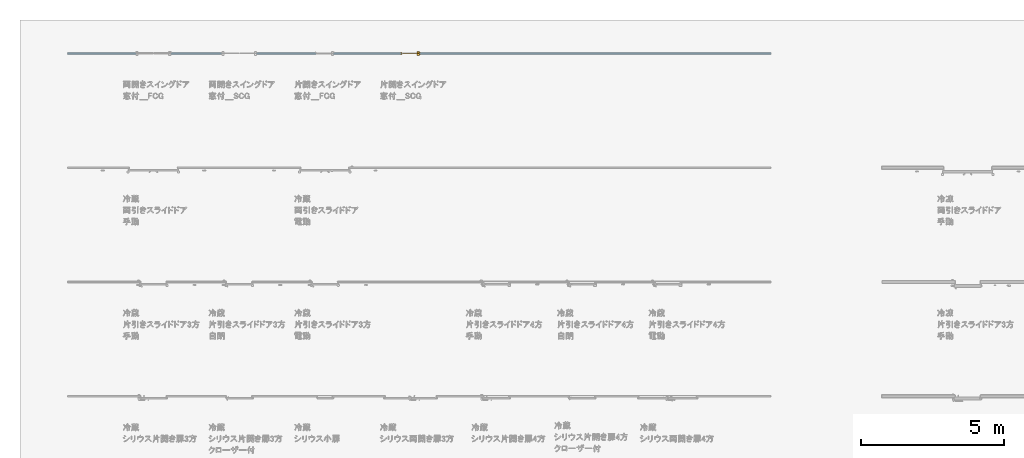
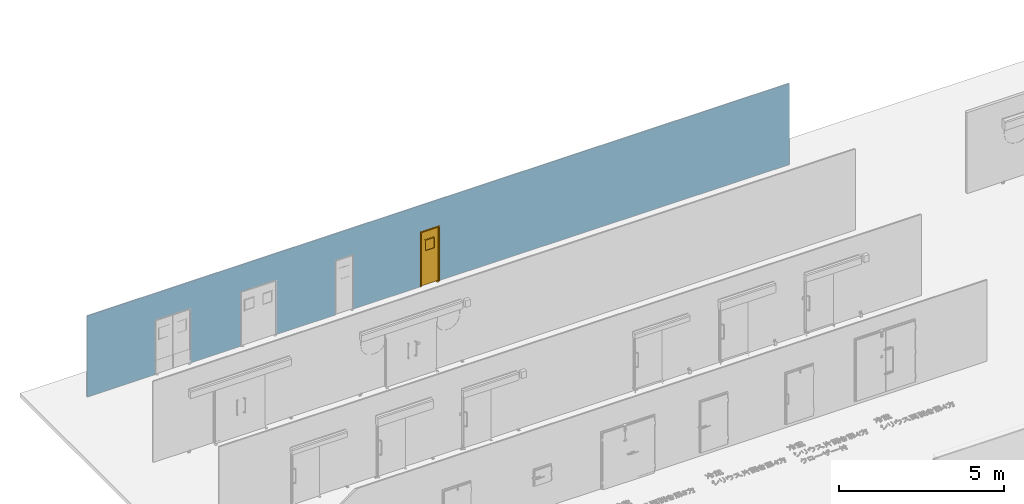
# One storey, part 7 of 16: 1 door, 4 openings, plus 1 element that does not belong to this part.
"""IFC2X3 building model written with IfcOpenShell, lengths in millimetres."""

import ifcopenshell
import ifcopenshell.guid

model = None  # the IFC model being written
_history = None  # IfcOwnerHistory: only IFC2X3 demands one
_inside = {}  # id of a spatial element -> (the spatial element, [elements in it])
_under = {}  # id of a project, library or spatial element -> (it, [spatial elements below it])
_declared = {}  # id of a project -> (the project, [libraries it declares])
_typed = {}  # id of a type object -> (the type object, [elements of that type])
_made_of = {}  # id of a material, layer set ... -> (it, [elements and type objects made of it])


def new_model(schema):
    """Start an empty IFC model of exactly this schema.

    Asked for "IFC4X3", IfcOpenShell would pick the latest addendum, in which some entities
    have other attributes; the version numbers below select the first issue.
    IFC2X3 requires an IfcOwnerHistory on every rooted entity: one is made here for all.
    """
    global model, _history
    if schema == "IFC4X3":
        model = ifcopenshell.file(schema_version=(4, 3, 0, 0))
    else:
        model = ifcopenshell.file(schema=schema)
    _inside.clear()
    _under.clear()
    _declared.clear()
    _typed.clear()
    _made_of.clear()
    _history = None
    if model.schema == "IFC2X3":
        org = make("IfcOrganization", Name="unknown")
        user = make(
            "IfcPersonAndOrganization",
            ThePerson=make("IfcPerson", FamilyName="unknown"),
            TheOrganization=org,
        )
        app = make(
            "IfcApplication",
            ApplicationDeveloper=org,
            Version="unknown",
            ApplicationFullName="unknown",
            ApplicationIdentifier="unknown",
        )
        _history = make(
            "IfcOwnerHistory",
            OwningUser=user,
            OwningApplication=app,
            ChangeAction="ADDED",
            CreationDate=0,
        )
    return model


def make(cls, **values):
    """One entity of the class cls with the attributes given. An attribute that is None is left unset."""
    return model.create_entity(
        cls, **{name: value for name, value in values.items() if value is not None}
    )


def entity(cls, *values):
    """Any entity or typed value of the class cls, its attributes in the order of the schema. None: left unset."""
    e = model.create_entity(cls)
    for i, value in enumerate(values):
        if value is not None:
            e[i] = value
    return e


def rooted(cls, **values):
    """An entity with a GlobalId (a new one), such as an element, a storey or a relation."""
    return make(cls, GlobalId=ifcopenshell.guid.new(), OwnerHistory=_history, **values)


def si_unit(unit_type, name, prefix=None):
    """IfcSIUnit, for example si_unit("LENGTHUNIT", "METRE", prefix="MILLI")."""
    return make("IfcSIUnit", UnitType=unit_type, Prefix=prefix, Name=name)


def converted_unit(unit_type, name, factor, base, dimensions=None, offset=None):
    """IfcConversionBasedUnit, such as the inch: factor (a typed value) times the base unit."""
    return make(
        "IfcConversionBasedUnit"
        if offset is None
        else "IfcConversionBasedUnitWithOffset",
        ConversionOffset=offset,
        Dimensions=None
        if dimensions is None
        else entity("IfcDimensionalExponents", *dimensions),
        UnitType=unit_type,
        Name=name,
        ConversionFactor=make(
            "IfcMeasureWithUnit", ValueComponent=factor, UnitComponent=base
        ),
    )


def derived_unit(unit_type, elements):
    """IfcDerivedUnit: a product of units, each with its exponent."""
    return make(
        "IfcDerivedUnit",
        Elements=[
            make("IfcDerivedUnitElement", Unit=unit, Exponent=power)
            for unit, power in elements
        ],
        UnitType=unit_type,
    )


def assignment(units):
    """IfcUnitAssignment: the units of a project."""
    return None if units is None else make("IfcUnitAssignment", Units=units)


def point(xyz):
    """IfcCartesianPoint."""
    return None if xyz is None else make("IfcCartesianPoint", Coordinates=xyz)


def direction(xyz):
    """IfcDirection."""
    return None if xyz is None else make("IfcDirection", DirectionRatios=xyz)


def frame(location, z_axis=None, x_axis=None):
    """IfcAxis2Placement3D, a coordinate frame: its origin and axes. An axis left out is left unset."""
    return make(
        "IfcAxis2Placement3D",
        Location=point(location),
        Axis=direction(z_axis),
        RefDirection=direction(x_axis),
    )


def frame_2d(location, x_axis=None):
    """IfcAxis2Placement2D, a coordinate frame in the plane: its origin and x axis."""
    return make(
        "IfcAxis2Placement2D", Location=point(location), RefDirection=direction(x_axis)
    )


def origin():
    """The frame at (0, 0, 0) with its axes left unset."""
    return frame((0.0, 0.0, 0.0))


def place(relative_to, where):
    """IfcLocalPlacement: puts the frame where relative to a parent placement (None: the world)."""
    return make(
        "IfcLocalPlacement", PlacementRelTo=relative_to, RelativePlacement=where
    )


def context(
    kind, dimensions, precision=None, world=None, true_north=None, identifier=None
):
    """IfcGeometricRepresentationContext, for example the 3D "Model" context."""
    return make(
        "IfcGeometricRepresentationContext",
        ContextIdentifier=identifier,
        ContextType=kind,
        CoordinateSpaceDimension=dimensions,
        Precision=precision,
        WorldCoordinateSystem=world,
        TrueNorth=true_north,
    )


def subcontext(parent, identifier, kind, view, scale=None):
    """IfcGeometricRepresentationSubContext, for example "Body" below "Model"."""
    return make(
        "IfcGeometricRepresentationSubContext",
        ContextIdentifier=identifier,
        ContextType=kind,
        ParentContext=parent,
        TargetScale=scale,
        TargetView=view,
    )


def project(units=None, contexts=None):
    """IfcProject with its units and contexts."""
    return rooted(
        "IfcProject",
        Name="project",
        RepresentationContexts=contexts,
        UnitsInContext=assignment(units),
    )


def spatial(cls, under=None, at=None, **own):
    """A site, building, storey or space (cls), placed at a placement, below another one or the project."""
    s = rooted(cls, ObjectPlacement=at, **own)
    if under is not None:
        _under.setdefault(under.id(), (under, []))[1].append(s)
    return s


def profile(cls, at=None, kind="AREA", **sizes):
    """A parametric profile (cls). Its sizes go by their IFC names, for example OverallWidth=200.0."""
    return make(cls, ProfileType=kind, Position=at, **sizes)


def rectangle(**sizes):
    """IfcRectangleProfileDef."""
    return profile("IfcRectangleProfileDef", **sizes)


def extrude(swept, where, along, depth):
    """IfcExtrudedAreaSolid: the profile swept, set in the frame where, extruded along a direction by depth."""
    return make(
        "IfcExtrudedAreaSolid",
        SweptArea=swept,
        Position=where,
        ExtrudedDirection=direction(along),
        Depth=depth,
    )


def faces_of(points, faces, orient=None, outer=None):
    """IfcFace entities. A face is a list of loops; a loop is a list of indices into points, from 0.

    orient and outer hold one flag for each loop. By default every Orientation is true, the
    first loop of a face is its IfcFaceOuterBound and the others are IfcFaceBound.
    """
    made = []
    for i, loops in enumerate(faces):
        bounds = []
        for j, loop in enumerate(loops):
            is_outer = j == 0 if outer is None else outer[i][j]
            bounds.append(
                make(
                    "IfcFaceOuterBound" if is_outer else "IfcFaceBound",
                    Bound=make("IfcPolyLoop", Polygon=[points[k] for k in loop]),
                    Orientation=True if orient is None else orient[i][j],
                )
            )
        made.append(make("IfcFace", Bounds=bounds))
    return made


def faceted_brep(points, faces, orient=None, outer=None, voids=None):
    """IfcFacetedBrep: a solid bounded by flat faces; with voids (closed shells), ...WithVoids."""
    shared = [point(p) for p in points]
    hull = make("IfcClosedShell", CfsFaces=faces_of(shared, faces, orient, outer))
    if voids is None:
        return make("IfcFacetedBrep", Outer=hull)
    return make(
        "IfcFacetedBrepWithVoids",
        Outer=hull,
        Voids=[
            make(cls, CfsFaces=faces_of(shared, fs, o, b)) for cls, fs, o, b in voids
        ],
    )


def shape(context_of_items, identifier, shape_type, items):
    """IfcShapeRepresentation: the items that make up one representation, for example the "Body"."""
    return make(
        "IfcShapeRepresentation",
        ContextOfItems=context_of_items,
        RepresentationIdentifier=identifier,
        RepresentationType=shape_type,
        Items=items,
    )


def source(mapping_origin, context_of_items, identifier, shape_type, items):
    """IfcRepresentationMap: a shape defined once, which mapped items show again and again."""
    return make(
        "IfcRepresentationMap",
        MappingOrigin=mapping_origin,
        MappedRepresentation=shape(context_of_items, identifier, shape_type, items),
    )


def transform(
    local_origin,
    x_axis=None,
    y_axis=None,
    z_axis=None,
    scale=None,
    scale2=None,
    scale3=None,
    uniform=True,
):
    """IfcCartesianTransformationOperator3D, or its non-uniform kind. x_axis, y_axis, z_axis: its Axis1, 2, 3."""
    if uniform:
        return make(
            "IfcCartesianTransformationOperator3D",
            Axis1=direction(x_axis),
            Axis2=direction(y_axis),
            LocalOrigin=point(local_origin),
            Scale=scale,
            Axis3=direction(z_axis),
        )
    return make(
        "IfcCartesianTransformationOperator3DnonUniform",
        Axis1=direction(x_axis),
        Axis2=direction(y_axis),
        LocalOrigin=point(local_origin),
        Scale=scale,
        Axis3=direction(z_axis),
        Scale2=scale2,
        Scale3=scale3,
    )


def mapped(mapping_source, mapping_target):
    """IfcMappedItem: shows the shape of a source again, moved by a transform."""
    return make(
        "IfcMappedItem", MappingSource=mapping_source, MappingTarget=mapping_target
    )


def material(Name=None, Category=None):
    """IfcMaterial."""
    return make("IfcMaterial", Name=Name, Category=Category)


def material_list(materials):
    """IfcMaterialList."""
    return make("IfcMaterialList", Materials=materials)


def layer(
    of_material, thickness, ventilated=None, Name=None, Category=None, Priority=None
):
    """IfcMaterialLayer: one layer of a wall or slab, of a material (None: an air gap)."""
    return make(
        "IfcMaterialLayer",
        Material=of_material,
        LayerThickness=thickness,
        IsVentilated=ventilated,
        Name=Name,
        Category=Category,
        Priority=Priority,
    )


def layer_set(layers, Name=None):
    """IfcMaterialLayerSet."""
    return make("IfcMaterialLayerSet", MaterialLayers=layers, LayerSetName=Name)


def layer_usage(for_layer_set, set_direction, sense, offset, extent=None):
    """IfcMaterialLayerSetUsage: how a layer set lies in its element."""
    return make(
        "IfcMaterialLayerSetUsage",
        ForLayerSet=for_layer_set,
        LayerSetDirection=set_direction,
        DirectionSense=sense,
        OffsetFromReferenceLine=offset,
        ReferenceExtent=extent,
    )


def made_of(thing, what):
    """Note that an element or type object is made of a material, layer set ...; save() writes the relation."""
    if what is not None:
        _made_of.setdefault(what.id(), (what, []))[1].append(thing)
    return thing


def type_object(cls, material=None, **own):
    """A type object (cls), such as IfcWallType, which elements share."""
    return made_of(rooted(cls, **own), material)


def type_shapes(of_type, sources):
    """Give a type object the sources (RepresentationMaps) that its elements show as mapped items."""
    of_type.RepresentationMaps = sources


def element(
    cls,
    number,
    at=None,
    inside=None,
    cuts=None,
    type_object=None,
    material=None,
    context=None,
    identifier="Body",
    shape_type=None,
    held_by="IfcProductDefinitionShape",
    body=None,
    shapes=None,
    **own,
):
    """One element of the class cls, such as IfcWall. Its Tag is "e" and its number.

    at: its placement. inside: the storey or other place that contains it. cuts: it is an
    opening in that element (IfcRelVoidsElement). A single representation is given by context,
    identifier, shape_type and body (its items); several are given by shapes. held_by: the class
    of the entity that holds the representations. save() writes the other relations.
    """
    e = rooted(cls, Tag="e%d" % number, ObjectPlacement=at, **own)
    if body is not None:
        shapes = [shape(context, identifier, shape_type, body)]
    if shapes is not None:
        e.Representation = make(held_by, Representations=shapes)
    if inside is not None:
        _inside.setdefault(inside.id(), (inside, []))[1].append(e)
    if cuts is not None:
        rooted(
            "IfcRelVoidsElement", RelatingBuildingElement=cuts, RelatedOpeningElement=e
        )
    if type_object is not None:
        _typed.setdefault(type_object.id(), (type_object, []))[1].append(e)
    return made_of(e, material)


def fill(opening, filler):
    """IfcRelFillsElement: the door or window that sits in an opening."""
    return rooted(
        "IfcRelFillsElement",
        RelatingOpeningElement=opening,
        RelatedBuildingElement=filler,
    )


def aggregate(whole, parts):
    """IfcRelAggregates: a whole, such as a stair, and the parts it consists of."""
    return rooted("IfcRelAggregates", RelatingObject=whole, RelatedObjects=parts)


def save(model, path):
    """Write the relations noted so far, then the file.

    IfcRelAggregates (storeys below a building ...), IfcRelContainedInSpatialStructure (elements
    in a storey), IfcRelDefinesByType, IfcRelAssociatesMaterial and IfcRelDeclares: one each for
    every whole, place, type object, material and project.
    """
    for whole, parts in _under.values():
        aggregate(whole, parts)
    for where, things in _inside.values():
        rooted(
            "IfcRelContainedInSpatialStructure",
            RelatedElements=things,
            RelatingStructure=where,
        )
    for kind, things in _typed.values():
        rooted("IfcRelDefinesByType", RelatedObjects=things, RelatingType=kind)
    for what, things in _made_of.values():
        rooted("IfcRelAssociatesMaterial", RelatedObjects=things, RelatingMaterial=what)
    for by, libraries in _declared.values():
        rooted("IfcRelDeclares", RelatingContext=by, RelatedDefinitions=libraries)
    model.write(path)


model = new_model("IFC2X3")

# Units and contexts
model_context = context("Model", 3, precision=0.01, world=origin(), true_north=direction((6.123031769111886e-17, 1.0)))
body_context = subcontext(model_context, "Body", "Model", "MODEL_VIEW")
ifc_project = project(units=[si_unit("LENGTHUNIT", "METRE", prefix="MILLI"), si_unit("AREAUNIT", "SQUARE_METRE"), si_unit("VOLUMEUNIT", "CUBIC_METRE"), converted_unit("PLANEANGLEUNIT", "DEGREE", entity("IfcRatioMeasure", 0.017453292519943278), si_unit("PLANEANGLEUNIT", "RADIAN"), dimensions=[0, 0, 0, 0, 0, 0, 0]), si_unit("MASSUNIT", "GRAM", prefix="KILO"), derived_unit("MASSDENSITYUNIT", [(si_unit("MASSUNIT", "GRAM", prefix="KILO"), 1), (si_unit("LENGTHUNIT", "METRE"), -3)]), derived_unit("IONCONCENTRATIONUNIT", [(si_unit("MASSUNIT", "GRAM", prefix="KILO"), 1), (si_unit("LENGTHUNIT", "METRE"), -3)]), derived_unit("MOMENTOFINERTIAUNIT", [(si_unit("LENGTHUNIT", "METRE"), 4)]), si_unit("TIMEUNIT", "SECOND"), si_unit("FREQUENCYUNIT", "HERTZ"), si_unit("THERMODYNAMICTEMPERATUREUNIT", "DEGREE_CELSIUS"), derived_unit("THERMALTRANSMITTANCEUNIT", [(si_unit("MASSUNIT", "GRAM", prefix="KILO"), 1), (si_unit("THERMODYNAMICTEMPERATUREUNIT", "KELVIN"), -1), (si_unit("TIMEUNIT", "SECOND"), -3)]), derived_unit("THERMALCONDUCTANCEUNIT", [(si_unit("MASSUNIT", "GRAM", prefix="KILO"), 1), (si_unit("THERMODYNAMICTEMPERATUREUNIT", "KELVIN"), -1), (si_unit("TIMEUNIT", "SECOND"), -3), (si_unit("LENGTHUNIT", "METRE"), 1)]), derived_unit("VOLUMETRICFLOWRATEUNIT", [(si_unit("LENGTHUNIT", "METRE"), 3), (si_unit("TIMEUNIT", "SECOND"), -1)]), derived_unit("MASSFLOWRATEUNIT", [(si_unit("MASSUNIT", "GRAM", prefix="KILO"), 1), (si_unit("TIMEUNIT", "SECOND"), -1)]), derived_unit("ROTATIONALFREQUENCYUNIT", [(si_unit("TIMEUNIT", "SECOND"), -1)]), si_unit("ELECTRICCURRENTUNIT", "AMPERE"), si_unit("ELECTRICVOLTAGEUNIT", "VOLT"), si_unit("POWERUNIT", "WATT"), si_unit("FORCEUNIT", "NEWTON", prefix="KILO"), si_unit("ILLUMINANCEUNIT", "LUX"), si_unit("LUMINOUSFLUXUNIT", "LUMEN"), si_unit("LUMINOUSINTENSITYUNIT", "CANDELA"), derived_unit("USERDEFINED", [(si_unit("MASSUNIT", "GRAM", prefix="KILO"), -1), (si_unit("LENGTHUNIT", "METRE"), -2), (si_unit("TIMEUNIT", "SECOND"), 3), (si_unit("LUMINOUSFLUXUNIT", "LUMEN"), 1)]), derived_unit("USERDEFINED", [(si_unit("MASSUNIT", "GRAM", prefix="KILO"), 1), (si_unit("TIMEUNIT", "SECOND"), -3), (si_unit("LENGTHUNIT", "METRE"), 3), (si_unit("ELECTRICCURRENTUNIT", "AMPERE"), -2)]), derived_unit("SOUNDPOWERUNIT", [(si_unit("MASSUNIT", "GRAM", prefix="KILO"), 1), (si_unit("TIMEUNIT", "SECOND"), -3), (si_unit("LENGTHUNIT", "METRE"), 2)]), derived_unit("SOUNDPRESSUREUNIT", [(si_unit("MASSUNIT", "GRAM", prefix="KILO"), 1), (si_unit("LENGTHUNIT", "METRE"), -1), (si_unit("TIMEUNIT", "SECOND"), -2)]), derived_unit("LINEARVELOCITYUNIT", [(si_unit("LENGTHUNIT", "METRE"), 1), (si_unit("TIMEUNIT", "SECOND"), -1)]), si_unit("PRESSUREUNIT", "PASCAL"), derived_unit("USERDEFINED", [(si_unit("MASSUNIT", "GRAM", prefix="KILO"), 1), (si_unit("LENGTHUNIT", "METRE"), -2), (si_unit("TIMEUNIT", "SECOND"), -2)]), derived_unit("LINEARFORCEUNIT", [(si_unit("MASSUNIT", "GRAM", prefix="KILO"), 1), (si_unit("TIMEUNIT", "SECOND"), -2)]), derived_unit("PLANARFORCEUNIT", [(si_unit("MASSUNIT", "GRAM", prefix="KILO"), 1), (si_unit("LENGTHUNIT", "METRE"), -1), (si_unit("TIMEUNIT", "SECOND"), -2)]), derived_unit("SPECIFICHEATCAPACITYUNIT", [(si_unit("THERMODYNAMICTEMPERATUREUNIT", "KELVIN"), -1), (si_unit("LENGTHUNIT", "METRE"), 2), (si_unit("TIMEUNIT", "SECOND"), -2)]), derived_unit("HEATINGVALUEUNIT", [(si_unit("LENGTHUNIT", "METRE"), 2), (si_unit("TIMEUNIT", "SECOND"), -2)]), derived_unit("VAPORPERMEABILITYUNIT", [(si_unit("LENGTHUNIT", "METRE"), -1), (si_unit("TIMEUNIT", "SECOND"), 1)]), derived_unit("DYNAMICVISCOSITYUNIT", [(si_unit("MASSUNIT", "GRAM", prefix="KILO"), 1), (si_unit("TIMEUNIT", "SECOND"), -1), (si_unit("LENGTHUNIT", "METRE"), -1)]), derived_unit("THERMALEXPANSIONCOEFFICIENTUNIT", [(si_unit("THERMODYNAMICTEMPERATUREUNIT", "KELVIN"), -1)]), derived_unit("MODULUSOFELASTICITYUNIT", [(si_unit("MASSUNIT", "GRAM", prefix="KILO"), 1), (si_unit("LENGTHUNIT", "METRE"), -1), (si_unit("TIMEUNIT", "SECOND"), -2)]), derived_unit("ISOTHERMALMOISTURECAPACITYUNIT", [(si_unit("LENGTHUNIT", "METRE"), 3), (si_unit("MASSUNIT", "GRAM", prefix="KILO"), -1)]), derived_unit("MOISTUREDIFFUSIVITYUNIT", [(si_unit("TIMEUNIT", "SECOND"), -1), (si_unit("LENGTHUNIT", "METRE"), 2)])], contexts=[model_context])

# Site, building, storey
site_placement = place(None, origin())
site = spatial("IfcSite", under=ifc_project, at=site_placement, Name="Default", CompositionType="ELEMENT")
building_placement = place(site_placement, origin())
building = spatial("IfcBuilding", under=site, at=building_placement, CompositionType="ELEMENT")
storey_placement = place(building_placement, frame((0.0, 0.0, 500.0)))
storey = spatial("IfcBuildingStorey", under=building, at=storey_placement, Name="レベル 1", CompositionType="ELEMENT", Elevation=500.00000000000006)

# Wall, openings, door
ifc_material_1 = material(Name="g-p_硬質ウレタンフォーム")
ifc_layer = layer(ifc_material_1, 44.0)
ifc_layer_set = layer_set([ifc_layer], Name="標準壁:g-p_断熱パネル(フラット)t44")
ifc_layer_usage = layer_usage(ifc_layer_set, "AXIS2", "NEGATIVE", 22.0)
wall_type = type_object("IfcWallType", Name="標準壁:g-p_断熱パネル(フラット)t44", PredefinedType="STANDARD", material=ifc_layer_set)
wall_placement = place(storey_placement, frame((-26100.0, 32000.0, 0.0)))
wall = element("IfcWallStandardCase", 1, at=wall_placement, inside=storey, type_object=wall_type, material=ifc_layer_usage, Name="標準壁:g-p_断熱パネル(フラット)t44", ObjectType="標準壁:g-p_断熱パネル(フラット)t44", context=body_context, shape_type="SweptSolid", body=[
    extrude(rectangle(XDim=24600.000000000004, YDim=43.99999999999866, at=frame_2d((12300.000000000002, 8.704148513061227e-14), x_axis=(1.0, 0.0))), origin(), (0.0, 0.0, 1.0), 3000.000000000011),
])
opening_1_placement = place(wall_placement, frame((2386.500000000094, -22.0, 0.0)))
element("IfcOpeningElement", 2, at=opening_1_placement, cuts=wall, Name="両開きスイングドア_窓付_FCG:W1215xH2005xt40:1", ObjectType="Opening", context=body_context, shape_type="SweptSolid", body=[
    extrude(rectangle(XDim=2010.9999999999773, YDim=1227.001029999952, at=frame_2d((1005.4999999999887, 613.5005149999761), x_axis=(-1.0, 0.0))), frame((0.0, 0.0, 0.0), z_axis=(0.0, 1.0, 0.0), x_axis=(0.0, 0.0, 1.0)), (0.0, 0.0, 1.0), 44.0),
])
opening_2_placement = place(wall_placement, frame((6613.500000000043, 22.0, 0.0)))
element("IfcOpeningElement", 3, at=opening_2_placement, cuts=wall, Name="両開きスイングドア_窓付_SCG:W1215xH2005xt21:1", ObjectType="Opening", context=body_context, shape_type="SweptSolid", body=[
    extrude(rectangle(XDim=2010.9999999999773, YDim=1227.001029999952, at=frame_2d((1005.4999999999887, 613.500514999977), x_axis=(-1.0, 0.0))), frame((0.0, 0.0, 0.0), z_axis=(0.0, -1.0, 0.0), x_axis=(0.0, 0.0, 1.0)), (0.0, 0.0, 1.0), 44.0),
])
opening_3_placement = place(wall_placement, frame((8689.0, -22.0, 0.0)))
element("IfcOpeningElement", 4, at=opening_3_placement, cuts=wall, Name="片開きスイングドア_窓付_FCG:W610xH2005xt40:1", ObjectType="Opening", context=body_context, shape_type="SweptSolid", body=[
    extrude(rectangle(XDim=2010.9999999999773, YDim=622.001029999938, at=frame_2d((1005.4999999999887, 311.0005149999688), x_axis=(-1.0, 0.0))), frame((0.0, 0.0, 0.0), z_axis=(0.0, 1.0, 0.0), x_axis=(0.0, 0.0, 1.0)), (0.0, 0.0, 1.0), 44.0),
])
opening_4_placement = place(wall_placement, frame((12311.001030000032, 22.0, 0.0)))
opening_4 = element("IfcOpeningElement", 5, at=opening_4_placement, cuts=wall, Name="片開きスイングドア_窓付_SCG:W610xH2005xt21:1", ObjectType="Opening", context=body_context, shape_type="SweptSolid", body=[
    extrude(rectangle(XDim=2010.9999999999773, YDim=622.0010299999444, at=frame_2d((1005.4999999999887, 311.0005149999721), x_axis=(-1.0, 0.0))), frame((0.0, 0.0, 0.0), z_axis=(0.0, -1.0, 0.0), x_axis=(0.0, 0.0, 1.0)), (0.0, 0.0, 1.0), 44.0),
])
ifc_material_2 = material(Name="g-p_ゴム")
ifc_material_3 = material(Name="g-p_樹脂")
ifc_material_4 = material(Name="g-p_アクリル")
ifc_material_5 = material(Name="g-p_アルミ")
ifc_material_6 = material(Name="g-p_SUS")
ifc_material_7 = material(Name="g-p_S_SUS鋼板No2B")
ifc_material_list = material_list([ifc_material_2, ifc_material_3, ifc_material_4, ifc_material_5, ifc_material_6, ifc_material_7])
door_style = type_object("IfcDoorStyle", Name="片開きスイングドア_窓付_SCG:W610xH2005xt21", ConstructionType="NOTDEFINED", OperationType="DOUBLE_SWING_LEFT", ParameterTakesPrecedence=False, Sizeable=False, material=ifc_material_list)
shared_shape = source(origin(), body_context, "Body", "Brep", [
    faceted_brep([(6.0, 21.0, 2005.0), (6.0, 21.0, 0.0), (616.0, 21.0, 0.0), (616.0, 21.0, 2005.0), (21.49999999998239, 21.0, 20.0), (21.49999999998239, 21.0, 1985.0), (600.4999999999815, 21.0, 1985.0), (600.4999999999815, 21.0, 20.0), (600.4999999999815, 23.0, 20.0), (21.49999999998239, 23.0, 20.0), (600.4999999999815, 23.0, 1985.0), (21.49999999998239, 23.0, 1985.0), (616.0, 23.0, 0.0), (616.0, 23.0, 2005.0), (6.0, 23.0, 0.0), (6.0, 23.0, 2005.0)], [[[0, 1, 2, 3], [4, 5, 6, 7]], [[7, 8, 9, 4]], [[6, 10, 8, 7]], [[4, 9, 11, 5]], [[2, 12, 13, 3]], [[1, 14, 12, 2]], [[0, 15, 14, 1]], [[9, 8, 10, 11], [15, 13, 12, 14]], [[5, 11, 10, 6]], [[3, 13, 15, 0]]], outer=[[True, False], [True], [True], [True], [True], [True], [True], [False, True], [True], [True]]),
    faceted_brep([(616.0, -6.000005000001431, 0.0), (616.0, 64.0, 0.0), (655.9999949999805, 64.0, 0.0), (655.9999949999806, 44.0, 0.0), (622.0, 44.0, 0.0), (622.0, 0.0, 0.0), (655.9999949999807, 0.0, 0.0), (655.9999949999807, -6.000005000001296, 0.0), (655.999994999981, -6.000005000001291, 2044.9999949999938), (-33.99999500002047, -6.000005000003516, 2044.9999949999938), (-33.999995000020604, -6.00000500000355, 0.0), (6.0, -6.000005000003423, 0.0), (6.0, -6.000005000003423, 2005.0), (616.0, -6.000005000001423, 2005.0), (655.9999949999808, 0.0, 2044.9999949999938), (622.0, 0.0, 2011.0), (0.0, 0.0, 2011.0), (0.0, 0.0, 0.0), (-33.999995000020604, 0.0, 0.0), (-33.999995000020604, 0.0, 2044.9999949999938), (622.0, 44.0, 2011.0), (655.9999949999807, 44.0, 2044.9999949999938), (-33.99999500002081, 44.0, 2044.9999949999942), (-33.99999500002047, 44.0, 0.0), (0.0, 44.0, 0.0), (0.0, 44.0, 2011.0), (655.9999949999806, 64.0, 2044.9999949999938), (616.0, 64.0, 2005.0), (6.0, 64.0, 2005.0), (6.0, 64.0, 0.0), (-33.99999500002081, 64.0, 0.0), (-33.99999500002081, 64.0, 2044.9999949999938)], [[[0, 1, 2, 3, 4, 5, 6, 7]], [[7, 8, 9, 10, 11, 12, 13, 0]], [[6, 14, 8, 7]], [[5, 15, 16, 17, 18, 19, 14, 6]], [[4, 20, 15, 5]], [[3, 21, 22, 23, 24, 25, 20, 4]], [[2, 26, 21, 3]], [[1, 27, 28, 29, 30, 31, 26, 2]], [[0, 13, 27, 1]], [[12, 11, 29, 28]], [[11, 10, 18, 17, 24, 23, 30, 29]], [[19, 18, 10, 9]], [[25, 24, 17, 16]], [[31, 30, 23, 22]], [[20, 25, 16, 15]], [[26, 31, 22, 21]], [[13, 12, 28, 27]], [[14, 19, 9, 8]]]),
    faceted_brep([(459.49999999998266, 19.5, 1270.0), (459.49999999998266, 19.5, 1650.0), (144.49999999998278, 19.5, 1650.0), (144.49999999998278, 19.5, 1270.0), (459.49999999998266, 24.499999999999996, 1270.0), (144.49999999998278, 24.499999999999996, 1270.0), (144.49999999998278, 24.499999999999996, 1650.0), (459.49999999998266, 24.499999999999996, 1650.0)], [[[0, 1, 2, 3]], [[4, 5, 6, 7]], [[3, 5, 4, 0]], [[2, 6, 5, 3]], [[1, 7, 6, 2]], [[0, 4, 7, 1]]]),
    faceted_brep([(459.49999999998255, 40.500000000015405, 1650.0), (459.4999999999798, 40.500000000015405, 1270.0), (459.4999999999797, 3.499999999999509, 1270.0), (459.49999999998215, 3.499999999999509, 1650.0), (489.49999999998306, 3.499999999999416, 1680.0), (489.4999999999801, 3.499999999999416, 1240.0), (489.4999999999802, 40.50000000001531, 1240.0), (489.49999999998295, 40.5000000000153, 1680.0), (144.4999999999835, 40.50000000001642, 1270.0), (144.49999999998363, 3.500000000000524, 1270.0), (114.49999999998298, 3.5000000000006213, 1240.0), (114.4999999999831, 40.50000000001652, 1240.0), (144.49999999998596, 40.50000000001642, 1650.0), (144.49999999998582, 3.500000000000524, 1650.0), (114.49999999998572, 3.5000000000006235, 1680.0), (114.49999999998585, 40.50000000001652, 1680.0)], [[[0, 1, 2, 3]], [[4, 5, 6, 7]], [[1, 8, 9, 2]], [[5, 10, 11, 6]], [[8, 12, 13, 9]], [[10, 14, 15, 11]], [[1, 0, 12, 8], [7, 6, 11, 15]], [[12, 0, 3, 13]], [[3, 2, 9, 13], [5, 4, 14, 10]], [[14, 4, 7, 15]]], outer=[[True], [True], [True], [True], [True], [True], [False, True], [True], [False, True], [True]]),
    faceted_brep([(176.00031999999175, -3.0, 2001.0001200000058), (176.00031999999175, -3.0, 2005.0), (6.0, -3.0, 2005.0), (6.0, -3.0, 1905.0003600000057), (10.000179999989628, -3.0, 1905.0003600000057), (10.000179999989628, -3.0, 2001.0001200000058), (176.00031999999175, 47.0, 2001.0001200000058), (10.000179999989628, 47.0, 2001.0001200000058), (10.000179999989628, 47.0, 1905.0003600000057), (6.0, 47.0, 1905.0003600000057), (6.0, 47.0, 2005.0), (176.00031999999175, 47.0, 2005.0)], [[[0, 1, 2, 3, 4, 5]], [[6, 7, 8, 9, 10, 11]], [[5, 7, 6, 0]], [[4, 8, 7, 5]], [[3, 9, 8, 4]], [[2, 10, 9, 3]], [[1, 11, 10, 2]], [[0, 6, 11, 1]]]),
    faceted_brep([(46.500005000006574, 22.0, 2001.0001200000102), (46.721487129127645, 20.317676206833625, 2001.0001200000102), (47.37083987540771, 18.75000000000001, 2001.0001200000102), (48.40381092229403, 17.40380592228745, 2001.0001200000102), (49.75000500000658, 16.370834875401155, 2001.0001200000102), (51.31768120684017, 15.72148212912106, 2001.0001200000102), (53.00000500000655, 15.499999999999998, 2001.0001200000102), (54.682328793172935, 15.721482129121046, 2001.0001200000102), (56.25000500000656, 16.370834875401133, 2001.0001200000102), (57.59619907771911, 17.40380592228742, 2001.0001200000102), (58.62917012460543, 18.749999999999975, 2001.0001200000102), (59.278522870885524, 20.317676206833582, 2001.0001200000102), (59.500005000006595, 22.0, 2001.0001200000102), (59.278522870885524, 23.682323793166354, 2001.0001200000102), (58.62917012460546, 25.24999999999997, 2001.0001200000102), (57.59619907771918, 26.596194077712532, 2001.0001200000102), (56.250005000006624, 27.62916512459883, 2001.0001200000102), (54.682328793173, 28.278517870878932, 2001.0001200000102), (53.00000500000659, 28.5, 2001.0001200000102), (51.317681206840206, 28.278517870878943, 2001.0001200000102), (49.75000500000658, 27.629165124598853, 2001.0001200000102), (48.40381092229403, 26.59619407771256, 2001.0001200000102), (47.370839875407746, 25.250000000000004, 2001.0001200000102), (46.721487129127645, 23.682323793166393, 2001.0001200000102), (57.59619907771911, 26.596194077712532, 1985.0), (58.629170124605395, 25.24999999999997, 1985.0), (59.27852287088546, 23.682323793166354, 1985.0), (59.50000500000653, 22.0, 1985.0), (59.27852287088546, 20.317676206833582, 1985.0), (58.62917012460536, 18.749999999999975, 1985.0), (57.59619907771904, 17.40380592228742, 1985.0), (56.25000500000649, 16.370834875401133, 1985.0), (54.682328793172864, 15.721482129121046, 1985.0), (53.00000500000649, 15.499999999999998, 1985.0), (51.317681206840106, 15.72148212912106, 1985.0), (49.75000500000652, 16.370834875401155, 1985.0), (48.40381092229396, 17.40380592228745, 1985.0), (47.37083987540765, 18.75000000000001, 1985.0), (46.72148712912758, 20.317676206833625, 1985.0), (46.50000500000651, 22.0, 1985.0), (46.72148712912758, 23.682323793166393, 1985.0), (47.370839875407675, 25.250000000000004, 1985.0), (48.40381092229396, 26.59619407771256, 1985.0), (49.75000500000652, 27.629165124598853, 1985.0), (51.317681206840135, 28.278517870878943, 1985.0), (53.00000500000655, 28.5, 1985.0), (54.682328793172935, 28.278517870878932, 1985.0), (56.25000500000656, 27.62916512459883, 1985.0)], [[[0, 1, 2, 3, 4, 5, 6, 7, 8, 9, 10, 11, 12, 13, 14, 15, 16, 17, 18, 19, 20, 21, 22, 23]], [[24, 25, 26, 27, 28, 29, 30, 31, 32, 33, 34, 35, 36, 37, 38, 39, 40, 41, 42, 43, 44, 45, 46, 47]], [[6, 33, 32, 7]], [[7, 32, 31, 8]], [[10, 9, 30, 29]], [[30, 9, 8, 31]], [[11, 10, 29, 28]], [[11, 28, 27, 12]], [[12, 27, 26, 13]], [[13, 26, 25, 14]], [[16, 15, 24, 47]], [[24, 15, 14, 25]], [[17, 16, 47, 46]], [[17, 46, 45, 18]], [[18, 45, 44, 19]], [[19, 44, 43, 20]], [[22, 21, 42, 41]], [[42, 21, 20, 43]], [[23, 22, 41, 40]], [[23, 40, 39, 0]], [[0, 39, 38, 1]], [[1, 38, 37, 2]], [[4, 3, 36, 35]], [[36, 3, 2, 37]], [[5, 4, 35, 34]], [[5, 34, 33, 6]]]),
    faceted_brep([(48.403810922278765, 17.403805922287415, 20.0), (49.75000499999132, 16.37083487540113, 20.0), (51.31768120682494, 15.721482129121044, 20.0), (53.000004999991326, 15.499999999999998, 20.0), (54.68232879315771, 15.721482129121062, 20.0), (56.2500049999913, 16.370834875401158, 20.0), (57.596199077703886, 17.403805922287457, 20.0), (58.62917012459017, 18.75000000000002, 20.0), (59.27852287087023, 20.317676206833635, 20.0), (59.500004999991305, 22.0, 20.0), (59.27852287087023, 23.6823237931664, 20.0), (58.62917012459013, 25.250000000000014, 20.0), (57.59619907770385, 26.596194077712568, 20.0), (56.2500049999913, 27.629165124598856, 20.0), (54.68232879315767, 28.278517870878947, 20.0), (53.00000499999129, 28.5, 20.0), (51.31768120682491, 28.27851787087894, 20.0), (49.75000499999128, 27.62916512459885, 20.0), (48.40381092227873, 26.596194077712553, 20.0), (47.37083987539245, 25.249999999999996, 20.0), (46.721487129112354, 23.682323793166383, 20.0), (46.50000499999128, 22.0, 20.0), (46.721487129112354, 20.317676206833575, 20.0), (47.37083987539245, 18.749999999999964, 20.0), (53.00000499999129, 28.5, 4.0), (54.68232879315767, 28.278517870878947, 4.0), (56.2500049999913, 27.629165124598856, 4.0), (57.59619907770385, 26.596194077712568, 4.0), (58.62917012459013, 25.250000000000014, 4.0), (59.27852287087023, 23.6823237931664, 4.0), (59.500004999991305, 22.0, 4.0), (59.27852287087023, 20.317676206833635, 4.0), (58.62917012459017, 18.75000000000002, 4.0), (57.596199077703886, 17.403805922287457, 4.0), (56.2500049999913, 16.370834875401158, 4.0), (54.68232879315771, 15.721482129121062, 4.0), (53.000004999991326, 15.499999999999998, 4.0), (51.31768120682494, 15.721482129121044, 4.0), (49.75000499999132, 16.37083487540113, 4.0), (48.403810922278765, 17.403805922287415, 4.0), (47.37083987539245, 18.749999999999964, 4.0), (46.721487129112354, 20.317676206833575, 4.0), (46.50000499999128, 22.0, 4.0), (46.721487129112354, 23.682323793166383, 4.0), (47.37083987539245, 25.249999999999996, 4.0), (48.40381092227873, 26.596194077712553, 4.0), (49.75000499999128, 27.62916512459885, 4.0), (51.31768120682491, 28.27851787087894, 4.0)], [[[0, 1, 2, 3, 4, 5, 6, 7, 8, 9, 10, 11, 12, 13, 14, 15, 16, 17, 18, 19, 20, 21, 22, 23]], [[24, 25, 26, 27, 28, 29, 30, 31, 32, 33, 34, 35, 36, 37, 38, 39, 40, 41, 42, 43, 44, 45, 46, 47]], [[42, 21, 20, 43]], [[43, 20, 19, 44]], [[46, 45, 18, 17]], [[18, 45, 44, 19]], [[47, 46, 17, 16]], [[47, 16, 15, 24]], [[24, 15, 14, 25]], [[25, 14, 13, 26]], [[28, 27, 12, 11]], [[12, 27, 26, 13]], [[29, 28, 11, 10]], [[29, 10, 9, 30]], [[30, 9, 8, 31]], [[31, 8, 7, 32]], [[34, 33, 6, 5]], [[6, 33, 32, 7]], [[35, 34, 5, 4]], [[35, 4, 3, 36]], [[36, 3, 2, 37]], [[37, 2, 1, 38]], [[40, 39, 0, 23]], [[0, 39, 38, 1]], [[41, 40, 23, 22]], [[41, 22, 21, 42]]]),
    faceted_brep([(9.999679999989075, -3.0, 120.0), (6.0, -3.0, 120.0), (6.0, -3.0, 4.0), (9.999679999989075, -3.0, 4.0), (9.999679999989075, 47.0, 120.0), (9.999679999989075, 47.0, 4.0), (6.0, 47.0, 4.0), (6.0, 47.0, 120.0), (6.0, 97.0, 4.0), (6.0, 97.0, 0.0), (6.0, -53.0, 0.0), (6.0, -53.0, 4.0), (79.49967999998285, 97.0, 0.0), (79.49967999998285, -53.0, 0.0), (79.49967999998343, 97.0, 4.0), (79.49967999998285, -53.0, 4.0)], [[[0, 1, 2, 3]], [[4, 5, 6, 7]], [[0, 4, 7, 1]], [[7, 6, 8, 9, 10, 11, 2, 1]], [[9, 12, 13, 10]], [[12, 14, 15, 13]], [[14, 8, 6, 5, 3, 2, 11, 15]], [[3, 5, 4, 0]], [[15, 11, 10, 13]], [[14, 12, 9, 8]]]),
    faceted_brep([(600.4999999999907, 32.49999999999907, 1985.0), (600.4999999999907, 32.49999999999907, 20.0), (21.499999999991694, 32.50000000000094, 20.0), (21.499999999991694, 32.50000000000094, 1985.0), (489.4999999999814, 32.499999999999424, 1680.0), (114.49999999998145, 32.50000000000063, 1680.0), (114.49999999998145, 32.50000000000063, 1240.0), (489.4999999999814, 32.499999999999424, 1240.0), (21.499999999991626, 11.500000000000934, 20.0), (21.499999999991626, 11.500000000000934, 1985.0), (600.4999999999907, 11.499999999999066, 20.0), (600.4999999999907, 11.499999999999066, 1985.0), (489.4999999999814, 11.499999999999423, 1680.0), (489.4999999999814, 11.499999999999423, 1240.0), (114.49999999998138, 11.500000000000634, 1240.0), (114.49999999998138, 11.500000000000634, 1680.0)], [[[0, 1, 2, 3], [4, 5, 6, 7]], [[2, 8, 9, 3]], [[1, 10, 8, 2]], [[0, 11, 10, 1]], [[11, 9, 8, 10], [12, 13, 14, 15]], [[3, 9, 11, 0]], [[4, 12, 15, 5]], [[5, 15, 14, 6]], [[6, 14, 13, 7]], [[7, 13, 12, 4]]]),
])
type_shapes(door_style, [shared_shape])
door_placement = place(opening_4_placement, frame((-0.0010300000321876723, 0.0, 0.0), z_axis=(0.0, 0.0, 1.0), x_axis=(-1.0, 0.0, 0.0)))
door = element("IfcDoor", 6, at=door_placement, inside=storey, type_object=door_style, material=ifc_material_list, Name="片開きスイングドア_窓付_SCG:W610xH2005xt21", ObjectType="片開きスイングドア_窓付_SCG:W610xH2005xt21", OverallHeight=2010.9999999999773, OverallWidth=622.0010299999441, context=body_context, shape_type="MappedRepresentation", body=[
    mapped(shared_shape, transform((0.0, 0.0, 0.0), scale=1.0)),
])
fill(opening_4, door)

save(model, "model.ifc")
